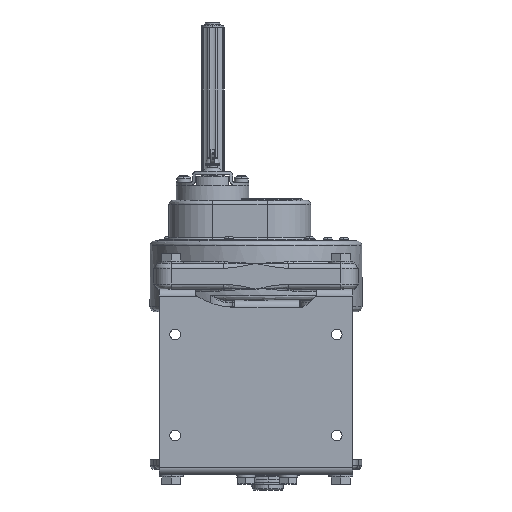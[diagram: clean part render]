
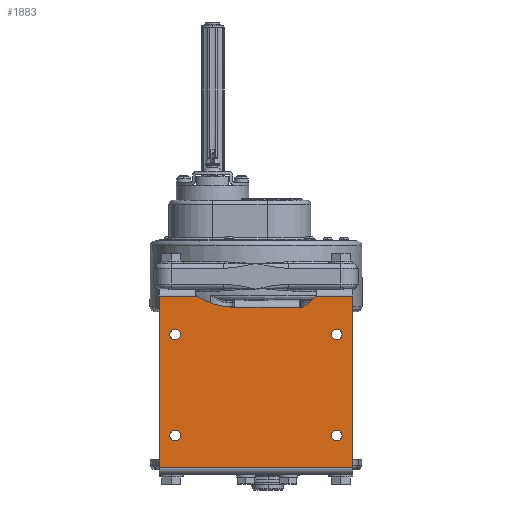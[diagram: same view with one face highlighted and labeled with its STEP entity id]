
A CAD part, front view. The second image highlights one B-rep face of the part: STEP entity #1883.
In plain terms, the highlighted planar face has unit normal (0, -1, 0).
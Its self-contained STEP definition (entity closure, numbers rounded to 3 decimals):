
#1883=ADVANCED_FACE('',(#20427,#20428,#20429,#20430,#20431),#20426,.T.);
#20426=PLANE('',#41227);
#20427=FACE_OUTER_BOUND('',#41228,.T.);
#20428=FACE_BOUND('',#41229,.T.);
#20429=FACE_BOUND('',#41230,.T.);
#20430=FACE_BOUND('',#41231,.T.);
#20431=FACE_BOUND('',#41232,.T.);
#41224=CARTESIAN_POINT('',(11.,-36.383,-212.1));
#41225=DIRECTION('',(0.,-1.,0.));
#41226=DIRECTION('',(0.,0.,1.));
#41227=AXIS2_PLACEMENT_3D('',#41224,#41225,#41226);
#41228=EDGE_LOOP('',(#56022,#56023,#56024,#56025,#56026,#56027,#56028,#56029,#56030,#56031));
#41229=EDGE_LOOP('',(#56032,#56033));
#41230=EDGE_LOOP('',(#56034,#56035));
#41231=EDGE_LOOP('',(#56036,#56037));
#41232=EDGE_LOOP('',(#56038,#56039));
#56022=ORIENTED_EDGE('',*,*,#59874,.T.);
#56023=ORIENTED_EDGE('',*,*,#59877,.T.);
#56024=ORIENTED_EDGE('',*,*,#59898,.T.);
#56025=ORIENTED_EDGE('',*,*,#59904,.T.);
#56026=ORIENTED_EDGE('',*,*,#59889,.T.);
#56027=ORIENTED_EDGE('',*,*,#59885,.T.);
#56028=ORIENTED_EDGE('',*,*,#64552,.T.);
#56029=ORIENTED_EDGE('',*,*,#59855,.F.);
#56030=ORIENTED_EDGE('',*,*,#64549,.F.);
#56031=ORIENTED_EDGE('',*,*,#59848,.T.);
#56032=ORIENTED_EDGE('',*,*,#64553,.F.);
#56033=ORIENTED_EDGE('',*,*,#64554,.F.);
#56034=ORIENTED_EDGE('',*,*,#64555,.F.);
#56035=ORIENTED_EDGE('',*,*,#64556,.F.);
#56036=ORIENTED_EDGE('',*,*,#64557,.F.);
#56037=ORIENTED_EDGE('',*,*,#64558,.F.);
#56038=ORIENTED_EDGE('',*,*,#64559,.F.);
#56039=ORIENTED_EDGE('',*,*,#64560,.F.);
#59848=EDGE_CURVE('',#68550,#68543,#68551,.T.);
#59855=EDGE_CURVE('',#68592,#68599,#68600,.T.);
#59874=EDGE_CURVE('',#68543,#68723,#68730,.T.);
#59877=EDGE_CURVE('',#68723,#68744,#68751,.T.);
#59885=EDGE_CURVE('',#68804,#68797,#68805,.T.);
#59889=EDGE_CURVE('',#68831,#68804,#68832,.T.);
#59898=EDGE_CURVE('',#68744,#68886,#68893,.T.);
#59904=EDGE_CURVE('',#68886,#68831,#68933,.T.);
#64549=EDGE_CURVE('',#68550,#68592,#99864,.T.);
#64552=EDGE_CURVE('',#68797,#68599,#99883,.T.);
#64553=EDGE_CURVE('',#99889,#99890,#99891,.T.);
#64554=EDGE_CURVE('',#99890,#99889,#99897,.T.);
#64555=EDGE_CURVE('',#99903,#99904,#99905,.T.);
#64556=EDGE_CURVE('',#99904,#99903,#99911,.T.);
#64557=EDGE_CURVE('',#99917,#99918,#99919,.T.);
#64558=EDGE_CURVE('',#99918,#99917,#99925,.T.);
#64559=EDGE_CURVE('',#99931,#99932,#99933,.T.);
#64560=EDGE_CURVE('',#99932,#99931,#99939,.T.);
#68543=VERTEX_POINT('',#109162);
#68550=VERTEX_POINT('',#109167);
#68551=LINE('',#109168,#109169);
#68592=VERTEX_POINT('',#109192);
#68599=VERTEX_POINT('',#109197);
#68600=LINE('',#109198,#109199);
#68723=VERTEX_POINT('',#109275);
#68730=LINE('',#109280,#109281);
#68744=VERTEX_POINT('',#109289);
#68751=CIRCLE('',#109296,30.);
#68797=VERTEX_POINT('',#109329);
#68804=VERTEX_POINT('',#109334);
#68805=CIRCLE('',#109338,70.);
#68831=VERTEX_POINT('',#109352);
#68832=CIRCLE('',#109356,2.);
#68886=VERTEX_POINT('',#109433);
#68893=CIRCLE('',#109453,2.);
#68933=LINE('',#109475,#109476);
#99864=LINE('',#130413,#130414);
#99883=LINE('',#130431,#130432);
#99889=VERTEX_POINT('',#130434);
#99890=VERTEX_POINT('',#130435);
#99891=CIRCLE('',#130439,5.25);
#99897=CIRCLE('',#130443,5.25);
#99903=VERTEX_POINT('',#130444);
#99904=VERTEX_POINT('',#130445);
#99905=CIRCLE('',#130449,5.25);
#99911=CIRCLE('',#130453,5.25);
#99917=VERTEX_POINT('',#130454);
#99918=VERTEX_POINT('',#130455);
#99919=CIRCLE('',#130459,5.25);
#99925=CIRCLE('',#130463,5.25);
#99931=VERTEX_POINT('',#130464);
#99932=VERTEX_POINT('',#130465);
#99933=CIRCLE('',#130469,5.25);
#99939=CIRCLE('',#130473,5.25);
#109162=CARTESIAN_POINT('',(1.,-36.383,-32.4));
#109167=CARTESIAN_POINT('',(1.,-36.383,-202.1));
#109168=CARTESIAN_POINT('',(1.,-36.383,-202.1));
#109169=VECTOR('',#109170,169.7);
#109170=DIRECTION('',(0.,0.,1.));
#109192=CARTESIAN_POINT('',(-191.,-36.383,-202.1));
#109197=CARTESIAN_POINT('',(-191.,-36.383,-32.4));
#109198=CARTESIAN_POINT('',(-191.,-36.383,-202.1));
#109199=VECTOR('',#109200,169.7);
#109200=DIRECTION('',(0.,0.,1.));
#109275=CARTESIAN_POINT('',(-35.917,-36.383,-32.4));
#109280=CARTESIAN_POINT('',(1.,-36.383,-32.4));
#109281=VECTOR('',#109282,36.917);
#109282=DIRECTION('',(-1.,0.,0.));
#109289=CARTESIAN_POINT('',(-49.234,-36.383,-43.247));
#109293=CARTESIAN_POINT('',(-60.73,-36.383,-15.537));
#109294=DIRECTION('',(0.,1.,0.));
#109295=DIRECTION('',(0.,0.,-1.));
#109296=AXIS2_PLACEMENT_3D('',#109293,#109294,#109295);
#109329=CARTESIAN_POINT('',(-153.59,-36.383,-32.4));
#109334=CARTESIAN_POINT('',(-118.063,-36.383,-43.399));
#109335=CARTESIAN_POINT('',(-115.868,-36.383,26.567));
#109336=DIRECTION('',(0.,1.,0.));
#109337=DIRECTION('',(0.,0.,-1.));
#109338=AXIS2_PLACEMENT_3D('',#109335,#109336,#109337);
#109352=CARTESIAN_POINT('',(-118.,-36.383,-43.4));
#109353=CARTESIAN_POINT('',(-118.,-36.383,-41.4));
#109354=DIRECTION('',(0.,1.,0.));
#109355=DIRECTION('',(0.,0.,-1.));
#109356=AXIS2_PLACEMENT_3D('',#109353,#109354,#109355);
#109433=CARTESIAN_POINT('',(-50.,-36.383,-43.4));
#109450=CARTESIAN_POINT('',(-50.,-36.383,-41.4));
#109451=DIRECTION('',(0.,1.,0.));
#109452=DIRECTION('',(0.,0.,-1.));
#109453=AXIS2_PLACEMENT_3D('',#109450,#109451,#109452);
#109475=CARTESIAN_POINT('',(-50.,-36.383,-43.4));
#109476=VECTOR('',#109477,68.);
#109477=DIRECTION('',(-1.,0.,0.));
#130413=CARTESIAN_POINT('',(1.,-36.383,-202.1));
#130414=VECTOR('',#130415,192.);
#130415=DIRECTION('',(-1.,0.,0.));
#130431=CARTESIAN_POINT('',(-153.59,-36.383,-32.4));
#130432=VECTOR('',#130433,37.41);
#130433=DIRECTION('',(-1.,0.,0.));
#130434=CARTESIAN_POINT('',(-15.,-36.383,-75.65));
#130435=CARTESIAN_POINT('',(-15.,-36.383,-65.15));
#130436=CARTESIAN_POINT('',(-15.,-36.383,-70.4));
#130437=DIRECTION('',(0.,-1.,0.));
#130438=DIRECTION('',(0.,0.,1.));
#130439=AXIS2_PLACEMENT_3D('',#130436,#130437,#130438);
#130440=CARTESIAN_POINT('',(-15.,-36.383,-70.4));
#130441=DIRECTION('',(0.,-1.,0.));
#130442=DIRECTION('',(0.,0.,1.));
#130443=AXIS2_PLACEMENT_3D('',#130440,#130441,#130442);
#130444=CARTESIAN_POINT('',(-175.,-36.383,-75.65));
#130445=CARTESIAN_POINT('',(-175.,-36.383,-65.15));
#130446=CARTESIAN_POINT('',(-175.,-36.383,-70.4));
#130447=DIRECTION('',(0.,-1.,0.));
#130448=DIRECTION('',(0.,0.,1.));
#130449=AXIS2_PLACEMENT_3D('',#130446,#130447,#130448);
#130450=CARTESIAN_POINT('',(-175.,-36.383,-70.4));
#130451=DIRECTION('',(0.,-1.,0.));
#130452=DIRECTION('',(0.,0.,1.));
#130453=AXIS2_PLACEMENT_3D('',#130450,#130451,#130452);
#130454=CARTESIAN_POINT('',(-175.,-36.383,-175.65));
#130455=CARTESIAN_POINT('',(-175.,-36.383,-165.15));
#130456=CARTESIAN_POINT('',(-175.,-36.383,-170.4));
#130457=DIRECTION('',(0.,-1.,0.));
#130458=DIRECTION('',(0.,0.,1.));
#130459=AXIS2_PLACEMENT_3D('',#130456,#130457,#130458);
#130460=CARTESIAN_POINT('',(-175.,-36.383,-170.4));
#130461=DIRECTION('',(0.,-1.,0.));
#130462=DIRECTION('',(0.,0.,1.));
#130463=AXIS2_PLACEMENT_3D('',#130460,#130461,#130462);
#130464=CARTESIAN_POINT('',(-15.,-36.383,-175.65));
#130465=CARTESIAN_POINT('',(-15.,-36.383,-165.15));
#130466=CARTESIAN_POINT('',(-15.,-36.383,-170.4));
#130467=DIRECTION('',(0.,-1.,0.));
#130468=DIRECTION('',(0.,0.,1.));
#130469=AXIS2_PLACEMENT_3D('',#130466,#130467,#130468);
#130470=CARTESIAN_POINT('',(-15.,-36.383,-170.4));
#130471=DIRECTION('',(0.,-1.,0.));
#130472=DIRECTION('',(0.,0.,1.));
#130473=AXIS2_PLACEMENT_3D('',#130470,#130471,#130472);
